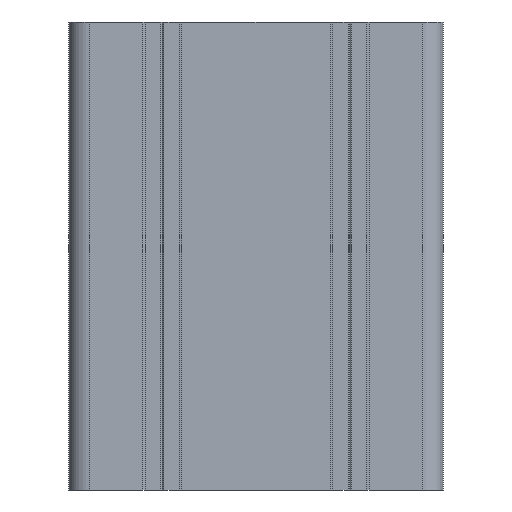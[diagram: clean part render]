
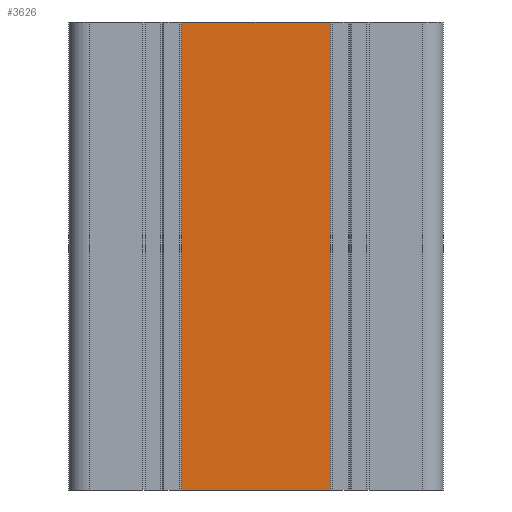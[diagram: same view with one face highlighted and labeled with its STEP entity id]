
A CAD part, front view. The second image highlights one B-rep face of the part: STEP entity #3626.
In plain terms, the highlighted planar face has unit normal (0, -1, 0).
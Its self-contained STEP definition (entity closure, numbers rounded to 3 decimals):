
#276 = EDGE_CURVE ( 'NONE', #3680, #3776, #5019, .T. ) ;
#441 = VERTEX_POINT ( 'NONE', #5283 ) ;
#655 = CARTESIAN_POINT ( 'NONE',  ( 35.85, -20., -100. ) ) ;
#785 = DIRECTION ( 'NONE',  ( 0., 0., 1. ) ) ;
#1192 = ORIENTED_EDGE ( 'NONE', *, *, #276, .F. ) ;
#1274 = EDGE_CURVE ( 'NONE', #441, #2986, #1809, .T. ) ;
#1481 = CARTESIAN_POINT ( 'NONE',  ( 20., -20., -100. ) ) ;
#1556 = CARTESIAN_POINT ( 'NONE',  ( 20., -20., -100. ) ) ;
#1809 = LINE ( 'NONE', #1556, #5804 ) ;
#2011 = DIRECTION ( 'NONE',  ( 1., 0., 0. ) ) ;
#2053 = CARTESIAN_POINT ( 'NONE',  ( 20., -20., 0. ) ) ;
#2385 = VECTOR ( 'NONE', #4898, 1000. ) ;
#2587 = VECTOR ( 'NONE', #5210, 1000. ) ;
#2609 = ORIENTED_EDGE ( 'NONE', *, *, #1274, .T. ) ;
#2820 = EDGE_LOOP ( 'NONE', ( #2825, #2609, #6245, #1192 ) ) ;
#2825 = ORIENTED_EDGE ( 'NONE', *, *, #5188, .F. ) ;
#2986 = VERTEX_POINT ( 'NONE', #4184 ) ;
#3193 = VECTOR ( 'NONE', #785, 1000. ) ;
#3622 = CARTESIAN_POINT ( 'NONE',  ( 35.85, -20., 0. ) ) ;
#3626 = ADVANCED_FACE ( 'NONE', ( #4602 ), #4501, .T. ) ;
#3680 = VERTEX_POINT ( 'NONE', #5545 ) ;
#3776 = VERTEX_POINT ( 'NONE', #3622 ) ;
#3931 = EDGE_CURVE ( 'NONE', #2986, #3776, #5224, .T. ) ;
#4184 = CARTESIAN_POINT ( 'NONE',  ( 35.85, -20., -100. ) ) ;
#4497 = AXIS2_PLACEMENT_3D ( 'NONE', #1481, #4993, #2011 ) ;
#4501 = PLANE ( 'NONE',  #4497 ) ;
#4503 = LINE ( 'NONE', #6304, #3193 ) ;
#4602 = FACE_OUTER_BOUND ( 'NONE', #2820, .T. ) ;
#4898 = DIRECTION ( 'NONE',  ( 1., 0., 0. ) ) ;
#4993 = DIRECTION ( 'NONE',  ( 0., -1., 0. ) ) ;
#5019 = LINE ( 'NONE', #2053, #2385 ) ;
#5065 = DIRECTION ( 'NONE',  ( 1., 0., 0. ) ) ;
#5188 = EDGE_CURVE ( 'NONE', #441, #3680, #4503, .T. ) ;
#5210 = DIRECTION ( 'NONE',  ( 0., 0., 1. ) ) ;
#5224 = LINE ( 'NONE', #655, #2587 ) ;
#5283 = CARTESIAN_POINT ( 'NONE',  ( 4.15, -20., -100. ) ) ;
#5545 = CARTESIAN_POINT ( 'NONE',  ( 4.15, -20., 0. ) ) ;
#5804 = VECTOR ( 'NONE', #5065, 1000. ) ;
#6245 = ORIENTED_EDGE ( 'NONE', *, *, #3931, .T. ) ;
#6304 = CARTESIAN_POINT ( 'NONE',  ( 4.15, -20., -100. ) ) ;
